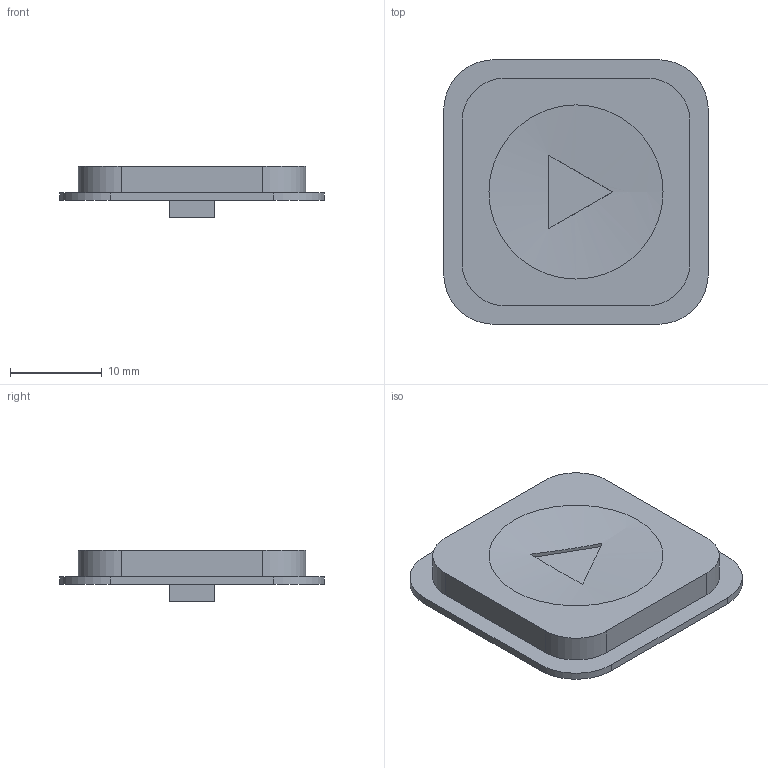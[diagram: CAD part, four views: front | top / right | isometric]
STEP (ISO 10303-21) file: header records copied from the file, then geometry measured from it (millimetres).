
FILE_DESCRIPTION(('Open CASCADE Model'),'2;1');
FILE_NAME('Open CASCADE Shape Model','2026-09-04T20:35:59',('Author'),( 'Open CASCADE'),'Open CASCADE STEP processor 7.7','Open CASCADE 7.7' ,'Unknown');
FILE_SCHEMA(('AUTOMOTIVE_DESIGN { 1 0 10303 214 1 1 1 1 }'));
Length unit declared in the file: millimetre
Products named in the file (1): Open CASCADE STEP translator 7.7 20
Bounding box: 28.8 x 28.8 x 5.6 mm (x, y, z)
Volume: 2344.8 mm3; surface area: 2004.3 mm2
Topology: 1 solids, 1 shells, 29 faces, 71 edges, 47 vertices
Faces by surface type: plane 20, cylinder 8, sphere 1
Entity records: 1988 total; most frequent: CARTESIAN_POINT 511, DIRECTION 285, LINE 169, VECTOR 169, ORIENTED_EDGE 142, PCURVE 142, DEFINITIONAL_REPRESENTATION 142, EDGE_CURVE 71
